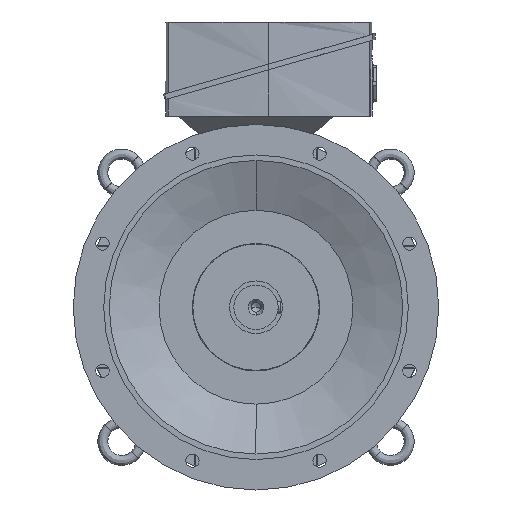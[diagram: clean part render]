
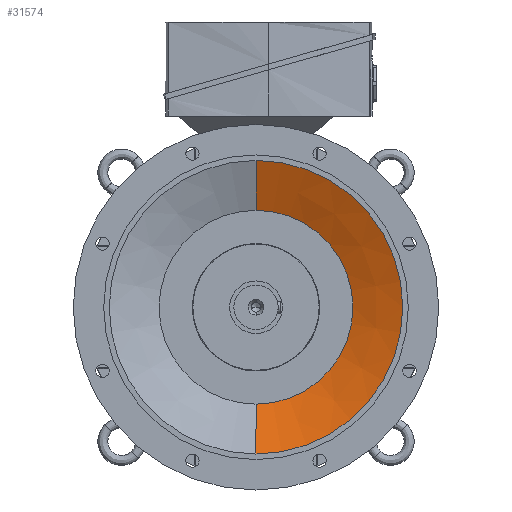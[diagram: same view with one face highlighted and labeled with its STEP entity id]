
A CAD part, left-side view. The second image highlights one B-rep face of the part: STEP entity #31574.
In plain terms, the highlighted conical face has half-angle 67.652 degrees and reference radius 265 mm.
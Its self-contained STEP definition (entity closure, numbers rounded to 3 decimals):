
#1402 = EDGE_CURVE ( 'NONE', #2324, #45848, #28293, .T. ) ;
#2324 = VERTEX_POINT ( 'NONE', #41564 ) ;
#6738 = ORIENTED_EDGE ( 'NONE', *, *, #10872, .T. ) ;
#8172 = CARTESIAN_POINT ( 'NONE',  ( -67., 0., -175. ) ) ;
#8895 = DIRECTION ( 'NONE',  ( 0., 0., 1. ) ) ;
#8942 = DIRECTION ( 'NONE',  ( -1., 0., 0. ) ) ;
#8982 = CARTESIAN_POINT ( 'NONE',  ( -104., 0., 0. ) ) ;
#9689 = ORIENTED_EDGE ( 'NONE', *, *, #13617, .T. ) ;
#10115 = CARTESIAN_POINT ( 'NONE',  ( -104., 0., 265. ) ) ;
#10872 = EDGE_CURVE ( 'NONE', #34205, #18091, #13386, .T. ) ;
#10931 = EDGE_CURVE ( 'NONE', #34205, #2324, #11875, .T. ) ;
#11875 = CIRCLE ( 'NONE', #26321, 175. ) ;
#12441 = VECTOR ( 'NONE', #38405, 1000. ) ;
#13386 = LINE ( 'NONE', #38457, #12441 ) ;
#13617 = EDGE_CURVE ( 'NONE', #18091, #45848, #32473, .T. ) ;
#14867 = ORIENTED_EDGE ( 'NONE', *, *, #10931, .F. ) ;
#15421 = CARTESIAN_POINT ( 'NONE',  ( -104., 0., 0. ) ) ;
#18091 = VERTEX_POINT ( 'NONE', #19518 ) ;
#19518 = CARTESIAN_POINT ( 'NONE',  ( -104., 0., -265. ) ) ;
#22345 = AXIS2_PLACEMENT_3D ( 'NONE', #8982, #8942, #8895 ) ;
#23199 = EDGE_LOOP ( 'NONE', ( #14867, #6738, #9689, #43729 ) ) ;
#26321 = AXIS2_PLACEMENT_3D ( 'NONE', #37515, #37508, #37473 ) ;
#28120 = VECTOR ( 'NONE', #30195, 1000. ) ;
#28293 = LINE ( 'NONE', #44460, #28120 ) ;
#29877 = DIRECTION ( 'NONE',  ( 0., 0., 1. ) ) ;
#30195 = DIRECTION ( 'NONE',  ( -0.38, 0., 0.925 ) ) ;
#31574 = ADVANCED_FACE ( 'NONE', ( #47071 ), #46465, .F. ) ;
#32473 = CIRCLE ( 'NONE', #22345, 265. ) ;
#34205 = VERTEX_POINT ( 'NONE', #8172 ) ;
#37473 = DIRECTION ( 'NONE',  ( 0., 0., 1. ) ) ;
#37508 = DIRECTION ( 'NONE',  ( -1., 0., 0. ) ) ;
#37515 = CARTESIAN_POINT ( 'NONE',  ( -67., 0., 0. ) ) ;
#38405 = DIRECTION ( 'NONE',  ( -0.38, 0., -0.925 ) ) ;
#38457 = CARTESIAN_POINT ( 'NONE',  ( -104., 0., -265. ) ) ;
#41564 = CARTESIAN_POINT ( 'NONE',  ( -67., 0., 175. ) ) ;
#42029 = AXIS2_PLACEMENT_3D ( 'NONE', #15421, #44114, #29877 ) ;
#43729 = ORIENTED_EDGE ( 'NONE', *, *, #1402, .F. ) ;
#44114 = DIRECTION ( 'NONE',  ( -1., 0., 0. ) ) ;
#44460 = CARTESIAN_POINT ( 'NONE',  ( -104., 0., 265. ) ) ;
#45848 = VERTEX_POINT ( 'NONE', #10115 ) ;
#46465 = CONICAL_SURFACE ( 'NONE', #42029, 265., 1.181 ) ;
#47071 = FACE_OUTER_BOUND ( 'NONE', #23199, .T. ) ;
